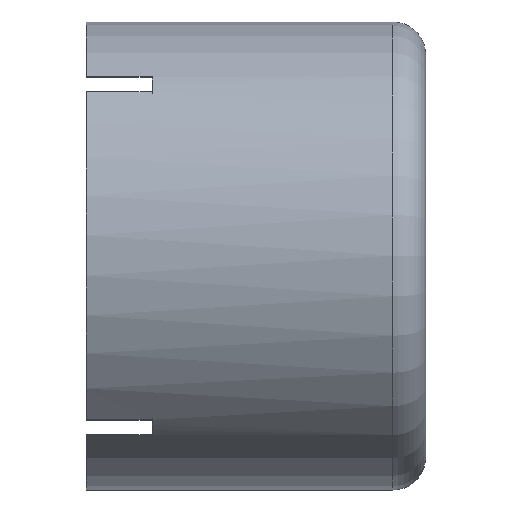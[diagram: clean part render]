
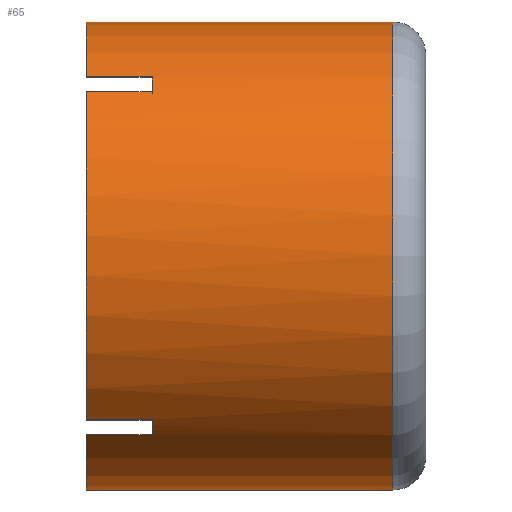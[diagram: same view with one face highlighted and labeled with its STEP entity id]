
A CAD part, top view. The second image highlights one B-rep face of the part: STEP entity #65.
In plain terms, the highlighted cylindrical face has radius 28.4 mm (diameter 56.8 mm), a partial arc.
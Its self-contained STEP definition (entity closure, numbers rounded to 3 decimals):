
#57=CYLINDRICAL_SURFACE('',#519,28.4);
#65=ADVANCED_FACE('',(#89),#57,.T.);
#89=FACE_OUTER_BOUND('',#113,.F.);
#113=EDGE_LOOP('',(#164,#165,#166,#167,#168,#169,#170,#171,#172,#173,#174,
#175));
#164=ORIENTED_EDGE('',*,*,#397,.T.);
#165=ORIENTED_EDGE('',*,*,#399,.T.);
#166=ORIENTED_EDGE('',*,*,#377,.F.);
#167=ORIENTED_EDGE('',*,*,#378,.F.);
#168=ORIENTED_EDGE('',*,*,#379,.T.);
#169=ORIENTED_EDGE('',*,*,#359,.T.);
#170=ORIENTED_EDGE('',*,*,#376,.F.);
#171=ORIENTED_EDGE('',*,*,#375,.F.);
#172=ORIENTED_EDGE('',*,*,#374,.T.);
#173=ORIENTED_EDGE('',*,*,#358,.T.);
#174=ORIENTED_EDGE('',*,*,#398,.F.);
#175=ORIENTED_EDGE('',*,*,#350,.T.);
#286=LINE('',#750,#322);
#287=LINE('',#752,#323);
#288=LINE('',#753,#324);
#289=LINE('',#755,#325);
#302=LINE('',#773,#338);
#303=LINE('',#774,#339);
#322=VECTOR('',#581,8.);
#323=VECTOR('',#584,8.);
#324=VECTOR('',#585,8.);
#325=VECTOR('',#588,8.);
#338=VECTOR('',#611,37.2);
#339=VECTOR('',#612,37.2);
#350=EDGE_CURVE('',#483,#482,#414,.T.);
#358=EDGE_CURVE('',#471,#470,#422,.T.);
#359=EDGE_CURVE('',#469,#468,#423,.T.);
#374=EDGE_CURVE('',#453,#471,#286,.T.);
#375=EDGE_CURVE('',#453,#452,#430,.T.);
#376=EDGE_CURVE('',#452,#468,#287,.T.);
#377=EDGE_CURVE('',#451,#450,#288,.T.);
#378=EDGE_CURVE('',#449,#451,#431,.T.);
#379=EDGE_CURVE('',#449,#469,#289,.T.);
#397=EDGE_CURVE('',#482,#466,#302,.T.);
#398=EDGE_CURVE('',#483,#470,#303,.T.);
#399=EDGE_CURVE('',#466,#450,#437,.T.);
#414=CIRCLE('',#486,28.4);
#422=CIRCLE('',#494,28.4);
#423=CIRCLE('',#495,28.4);
#430=CIRCLE('',#502,28.4);
#431=CIRCLE('',#503,28.4);
#437=CIRCLE('',#509,28.4);
#449=VERTEX_POINT('',#691);
#450=VERTEX_POINT('',#692);
#451=VERTEX_POINT('',#693);
#452=VERTEX_POINT('',#694);
#453=VERTEX_POINT('',#695);
#466=VERTEX_POINT('',#708);
#468=VERTEX_POINT('',#710);
#469=VERTEX_POINT('',#711);
#470=VERTEX_POINT('',#712);
#471=VERTEX_POINT('',#713);
#482=VERTEX_POINT('',#724);
#483=VERTEX_POINT('',#725);
#486=AXIS2_PLACEMENT_3D('',#726,#541,#542);
#494=AXIS2_PLACEMENT_3D('',#734,#557,#558);
#495=AXIS2_PLACEMENT_3D('',#735,#559,#560);
#502=AXIS2_PLACEMENT_3D('',#751,#582,#583);
#503=AXIS2_PLACEMENT_3D('',#754,#586,#587);
#509=AXIS2_PLACEMENT_3D('',#775,#613,#614);
#519=AXIS2_PLACEMENT_3D('',#795,#643,#644);
#541=DIRECTION('',(1.,0.,0.));
#542=DIRECTION('',(0.,1.,0.));
#557=DIRECTION('',(-1.,0.,0.));
#558=DIRECTION('',(0.,0.766,0.643));
#559=DIRECTION('',(-1.,0.,0.));
#560=DIRECTION('',(0.,-0.701,0.713));
#581=DIRECTION('',(-1.,0.,0.));
#582=DIRECTION('',(1.,0.,0.));
#583=DIRECTION('',(0.,0.766,0.643));
#584=DIRECTION('',(-1.,0.,0.));
#585=DIRECTION('',(-1.,0.,0.));
#586=DIRECTION('',(1.,0.,0.));
#587=DIRECTION('',(0.,-0.701,0.713));
#588=DIRECTION('',(-1.,0.,0.));
#611=DIRECTION('',(-1.,0.,0.));
#612=DIRECTION('',(-1.,0.,0.));
#613=DIRECTION('',(-1.,0.,0.));
#614=DIRECTION('',(0.,-1.,0.));
#643=DIRECTION('',(1.,0.,0.));
#644=DIRECTION('',(0.,1.,0.));
#691=CARTESIAN_POINT('',(167.953,47.213,-115.658));
#692=CARTESIAN_POINT('',(159.953,45.375,-117.646));
#693=CARTESIAN_POINT('',(167.953,45.375,-117.646));
#694=CARTESIAN_POINT('',(167.953,87.037,-115.658));
#695=CARTESIAN_POINT('',(167.953,88.875,-117.646));
#708=CARTESIAN_POINT('',(159.953,38.725,-135.908));
#710=CARTESIAN_POINT('',(159.953,87.037,-115.658));
#711=CARTESIAN_POINT('',(159.953,47.213,-115.658));
#712=CARTESIAN_POINT('',(159.953,95.525,-135.908));
#713=CARTESIAN_POINT('',(159.953,88.875,-117.646));
#724=CARTESIAN_POINT('',(197.153,38.725,-135.908));
#725=CARTESIAN_POINT('',(197.153,95.525,-135.908));
#726=CARTESIAN_POINT('',(197.153,67.125,-135.908));
#734=CARTESIAN_POINT('',(159.953,67.125,-135.908));
#735=CARTESIAN_POINT('',(159.953,67.125,-135.908));
#750=CARTESIAN_POINT('',(167.953,88.875,-117.646));
#751=CARTESIAN_POINT('',(167.953,67.125,-135.908));
#752=CARTESIAN_POINT('',(167.953,87.037,-115.658));
#753=CARTESIAN_POINT('',(167.953,45.375,-117.646));
#754=CARTESIAN_POINT('',(167.953,67.125,-135.908));
#755=CARTESIAN_POINT('',(167.953,47.213,-115.658));
#773=CARTESIAN_POINT('',(197.153,38.725,-135.908));
#774=CARTESIAN_POINT('',(197.153,95.525,-135.908));
#775=CARTESIAN_POINT('',(159.953,67.125,-135.908));
#795=CARTESIAN_POINT('',(201.153,67.125,-135.908));
